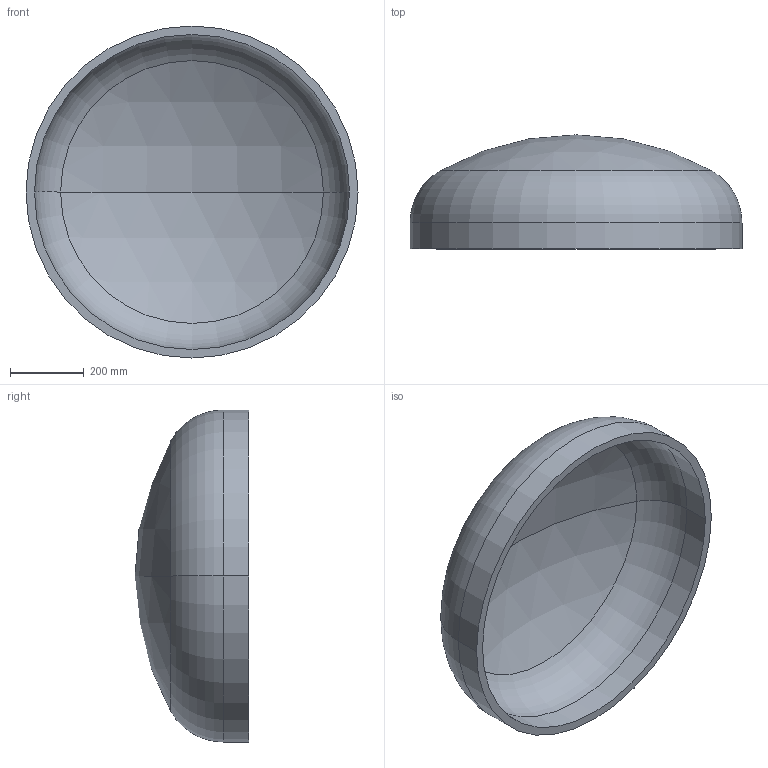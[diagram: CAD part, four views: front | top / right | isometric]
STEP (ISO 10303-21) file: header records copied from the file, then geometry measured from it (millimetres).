
FILE_DESCRIPTION (( 'STEP AP203' ), '1' );
FILE_NAME ('DIN 28013 Korbbogenform_-_Boden DIN 28013 - 900 x 70 - I - s=23.step', '2016-07-01T08:28:00', ( '' ), ( '' ), 'SwSTEP 2.0', 'SolidWorks 2013', '' );
FILE_SCHEMA (( 'CONFIG_CONTROL_DESIGN' ));
Length unit declared in the file: millimetre
Products named in the file (1): DIN 28013 Korbbogenform_-_Boden DIN 28013 - 900 x 70 - I - s=23
Bounding box: 900 x 308.99 x 900 mm (x, y, z)
Volume: 24072737.5 mm3; surface area: 2157757.9 mm2
Topology: 1 solids, 1 shells, 13 faces, 24 edges, 14 vertices
Faces by surface type: torus 4, cylinder 4, sphere 4, plane 1
Entity records: 407 total; most frequent: DIRECTION 72, CARTESIAN_POINT 52, ORIENTED_EDGE 48, AXIS2_PLACEMENT_3D 34, EDGE_CURVE 24, CIRCLE 20, EDGE_LOOP 14, VERTEX_POINT 14
